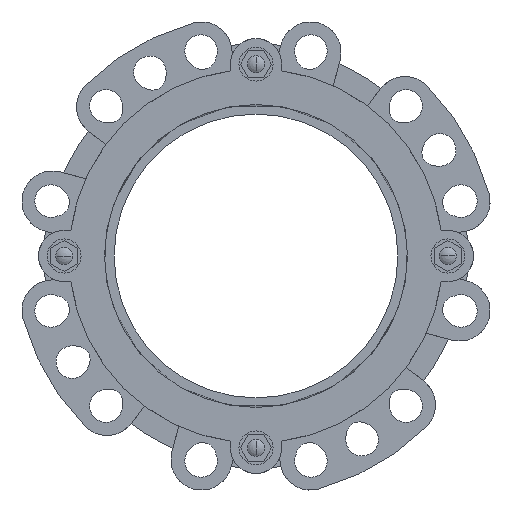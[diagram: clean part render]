
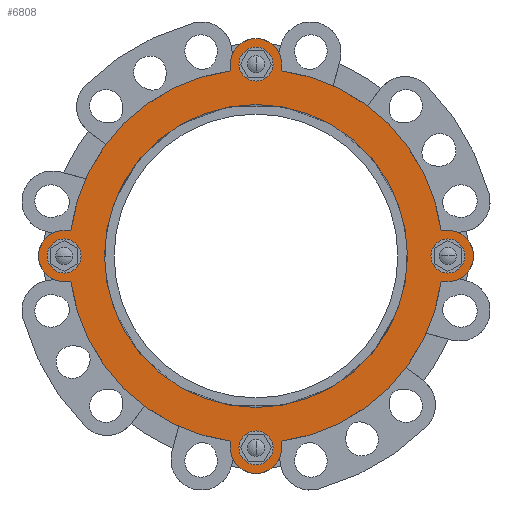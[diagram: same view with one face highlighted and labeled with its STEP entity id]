
A CAD part, left-side view. The second image highlights one B-rep face of the part: STEP entity #6808.
In plain terms, the highlighted planar face has unit normal (-1, 0, 0).
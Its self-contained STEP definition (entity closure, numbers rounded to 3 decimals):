
#1882=CARTESIAN_POINT('',(-101.,0.,0.));
#1883=DIRECTION('',(-1.,0.,0.));
#1884=DIRECTION('',(0.,-0.137,-0.991));
#1885=AXIS2_PLACEMENT_3D('',#1882,#1883,#1884);
#1918=CARTESIAN_POINT('',(-101.,0.,0.));
#1919=DIRECTION('',(-1.,0.,0.));
#1920=DIRECTION('',(0.,0.991,-0.137));
#1921=AXIS2_PLACEMENT_3D('',#1918,#1919,#1920);
#1927=CARTESIAN_POINT('',(-101.,0.,0.));
#1928=DIRECTION('',(-1.,0.,0.));
#1929=DIRECTION('',(0.,0.137,0.991));
#1930=AXIS2_PLACEMENT_3D('',#1927,#1928,#1929);
#1954=CARTESIAN_POINT('',(-101.,0.,0.));
#1955=DIRECTION('',(-1.,0.,0.));
#1956=DIRECTION('',(0.,-0.991,0.137));
#1957=AXIS2_PLACEMENT_3D('',#1954,#1955,#1956);
#2028=DIRECTION('',(0.,0.,-1.));
#2029=VECTOR('',#2028,4.735);
#2030=CARTESIAN_POINT('',(-101.,18.,-130.515));
#2031=LINE('',#2030,#2029);
#2040=CARTESIAN_POINT('',(-101.,0.,-135.25));
#2041=DIRECTION('',(-1.,0.,0.));
#2042=DIRECTION('',(0.,0.,-1.));
#2043=AXIS2_PLACEMENT_3D('',#2040,#2041,#2042);
#2045=CARTESIAN_POINT('',(-101.,0.,-135.25));
#2046=DIRECTION('',(-1.,0.,0.));
#2047=DIRECTION('',(0.,0.,1.));
#2048=AXIS2_PLACEMENT_3D('',#2045,#2046,#2047);
#2050=CARTESIAN_POINT('',(-101.,0.,135.25));
#2051=DIRECTION('',(-1.,0.,0.));
#2052=DIRECTION('',(0.,0.,1.));
#2053=AXIS2_PLACEMENT_3D('',#2050,#2051,#2052);
#2055=CARTESIAN_POINT('',(-101.,0.,135.25));
#2056=DIRECTION('',(-1.,0.,0.));
#2057=DIRECTION('',(0.,0.,-1.));
#2058=AXIS2_PLACEMENT_3D('',#2055,#2056,#2057);
#2060=CARTESIAN_POINT('',(-101.,135.25,0.));
#2061=DIRECTION('',(-1.,0.,0.));
#2062=DIRECTION('',(0.,1.,0.));
#2063=AXIS2_PLACEMENT_3D('',#2060,#2061,#2062);
#2065=CARTESIAN_POINT('',(-101.,135.25,0.));
#2066=DIRECTION('',(-1.,0.,0.));
#2067=DIRECTION('',(0.,-1.,0.));
#2068=AXIS2_PLACEMENT_3D('',#2065,#2066,#2067);
#2070=DIRECTION('',(0.,-1.,0.));
#2071=VECTOR('',#2070,4.735);
#2072=CARTESIAN_POINT('',(-101.,135.25,-18.));
#2073=LINE('',#2072,#2071);
#2074=CARTESIAN_POINT('',(-101.,135.25,0.));
#2075=DIRECTION('',(-1.,0.,0.));
#2076=DIRECTION('',(0.,0.,1.));
#2077=AXIS2_PLACEMENT_3D('',#2074,#2075,#2076);
#2079=DIRECTION('',(0.,1.,0.));
#2080=VECTOR('',#2079,4.735);
#2081=CARTESIAN_POINT('',(-101.,130.515,18.));
#2082=LINE('',#2081,#2080);
#2083=CARTESIAN_POINT('',(-101.,-135.25,0.));
#2084=DIRECTION('',(-1.,0.,0.));
#2085=DIRECTION('',(0.,-1.,0.));
#2086=AXIS2_PLACEMENT_3D('',#2083,#2084,#2085);
#2088=CARTESIAN_POINT('',(-101.,-135.25,0.));
#2089=DIRECTION('',(-1.,0.,0.));
#2090=DIRECTION('',(0.,1.,0.));
#2091=AXIS2_PLACEMENT_3D('',#2088,#2089,#2090);
#2477=DIRECTION('',(0.,0.,1.));
#2478=VECTOR('',#2477,4.735);
#2479=CARTESIAN_POINT('',(-101.,-18.,-135.25));
#2480=LINE('',#2479,#2478);
#2493=CARTESIAN_POINT('',(-101.,0.,-135.25));
#2494=DIRECTION('',(-1.,0.,0.));
#2495=DIRECTION('',(0.,1.,0.));
#2496=AXIS2_PLACEMENT_3D('',#2493,#2494,#2495);
#2746=DIRECTION('',(0.,0.,-1.));
#2747=VECTOR('',#2746,4.735);
#2748=CARTESIAN_POINT('',(-101.,18.,135.25));
#2749=LINE('',#2748,#2747);
#2818=DIRECTION('',(0.,0.,1.));
#2819=VECTOR('',#2818,4.735);
#2820=CARTESIAN_POINT('',(-101.,-18.,130.515));
#2821=LINE('',#2820,#2819);
#2830=CARTESIAN_POINT('',(-101.,0.,135.25));
#2831=DIRECTION('',(-1.,0.,0.));
#2832=DIRECTION('',(0.,-1.,0.));
#2833=AXIS2_PLACEMENT_3D('',#2830,#2831,#2832);
#2853=DIRECTION('',(0.,1.,0.));
#2854=VECTOR('',#2853,4.735);
#2855=CARTESIAN_POINT('',(-101.,-135.25,18.));
#2856=LINE('',#2855,#2854);
#2895=DIRECTION('',(0.,-1.,0.));
#2896=VECTOR('',#2895,4.735);
#2897=CARTESIAN_POINT('',(-101.,-130.515,-18.));
#2898=LINE('',#2897,#2896);
#2907=CARTESIAN_POINT('',(-101.,-135.25,0.));
#2908=DIRECTION('',(-1.,0.,0.));
#2909=DIRECTION('',(0.,0.,-1.));
#2910=AXIS2_PLACEMENT_3D('',#2907,#2908,#2909);
#2976=CARTESIAN_POINT('',(-101.,0.,0.));
#2977=DIRECTION('',(1.,0.,0.));
#2978=DIRECTION('',(0.,1.,0.));
#2979=AXIS2_PLACEMENT_3D('',#2976,#2977,#2978);
#2989=CARTESIAN_POINT('',(-101.,0.,0.));
#2990=DIRECTION('',(-1.,0.,0.));
#2991=DIRECTION('',(0.,1.,0.));
#2992=AXIS2_PLACEMENT_3D('',#2989,#2990,#2991);
#3524=CARTESIAN_POINT('',(-101.,106.75,0.));
#3526=VERTEX_POINT('',#3524);
#3534=CARTESIAN_POINT('',(-101.,-106.75,0.));
#3536=VERTEX_POINT('',#3534);
#3548=CARTESIAN_POINT('',(-101.,135.25,18.));
#3549=CARTESIAN_POINT('',(-101.,135.25,-18.));
#3550=VERTEX_POINT('',#3548);
#3551=VERTEX_POINT('',#3549);
#3553=CARTESIAN_POINT('',(-101.,130.515,18.));
#3555=VERTEX_POINT('',#3553);
#3556=CARTESIAN_POINT('',(-101.,130.515,-18.));
#3558=VERTEX_POINT('',#3556);
#3616=CARTESIAN_POINT('',(-101.,18.,135.25));
#3617=VERTEX_POINT('',#3616);
#3618=CARTESIAN_POINT('',(-101.,-18.,135.25));
#3619=VERTEX_POINT('',#3618);
#3648=CARTESIAN_POINT('',(-101.,-135.25,18.));
#3649=VERTEX_POINT('',#3648);
#3650=CARTESIAN_POINT('',(-101.,-135.25,-18.));
#3651=VERTEX_POINT('',#3650);
#3680=CARTESIAN_POINT('',(-101.,-18.,-135.25));
#3681=VERTEX_POINT('',#3680);
#3682=CARTESIAN_POINT('',(-101.,18.,-135.25));
#3683=VERTEX_POINT('',#3682);
#3692=CARTESIAN_POINT('',(-101.,-18.,130.515));
#3693=VERTEX_POINT('',#3692);
#3694=CARTESIAN_POINT('',(-101.,18.,130.515));
#3695=VERTEX_POINT('',#3694);
#3704=CARTESIAN_POINT('',(-101.,-130.515,-18.));
#3705=VERTEX_POINT('',#3704);
#3706=CARTESIAN_POINT('',(-101.,-130.515,18.));
#3707=VERTEX_POINT('',#3706);
#3718=CARTESIAN_POINT('',(-101.,18.,-130.515));
#3719=VERTEX_POINT('',#3718);
#3720=CARTESIAN_POINT('',(-101.,-18.,-130.515));
#3721=VERTEX_POINT('',#3720);
#3790=CARTESIAN_POINT('',(-101.,147.25,0.));
#3791=CARTESIAN_POINT('',(-101.,123.25,0.));
#3792=VERTEX_POINT('',#3790);
#3793=VERTEX_POINT('',#3791);
#3952=CARTESIAN_POINT('',(-101.,0.,147.25));
#3953=VERTEX_POINT('',#3952);
#3954=CARTESIAN_POINT('',(-101.,0.,123.25));
#3955=VERTEX_POINT('',#3954);
#3964=CARTESIAN_POINT('',(-101.,-147.25,0.));
#3965=VERTEX_POINT('',#3964);
#3966=CARTESIAN_POINT('',(-101.,-123.25,0.));
#3967=VERTEX_POINT('',#3966);
#3976=CARTESIAN_POINT('',(-101.,0.,-147.25));
#3977=VERTEX_POINT('',#3976);
#3978=CARTESIAN_POINT('',(-101.,0.,-123.25));
#3979=VERTEX_POINT('',#3978);
#6744=CARTESIAN_POINT('',(-101.,0.,0.));
#6745=DIRECTION('',(1.,0.,0.));
#6746=DIRECTION('',(0.,-1.,0.));
#6747=AXIS2_PLACEMENT_3D('',#6744,#6745,#6746);
#6748=PLANE('',#6747);
#6749=ORIENTED_EDGE('',*,*,#6575,.F.);
#6751=ORIENTED_EDGE('',*,*,#6750,.F.);
#6753=ORIENTED_EDGE('',*,*,#6752,.F.);
#6754=ORIENTED_EDGE('',*,*,#6734,.F.);
#6755=ORIENTED_EDGE('',*,*,#6601,.F.);
#6757=ORIENTED_EDGE('',*,*,#6756,.F.);
#6759=ORIENTED_EDGE('',*,*,#6758,.F.);
#6761=ORIENTED_EDGE('',*,*,#6760,.F.);
#6762=ORIENTED_EDGE('',*,*,#6621,.F.);
#6764=ORIENTED_EDGE('',*,*,#6763,.F.);
#6766=ORIENTED_EDGE('',*,*,#6765,.F.);
#6768=ORIENTED_EDGE('',*,*,#6767,.F.);
#6769=ORIENTED_EDGE('',*,*,#6644,.F.);
#6771=ORIENTED_EDGE('',*,*,#6770,.F.);
#6773=ORIENTED_EDGE('',*,*,#6772,.F.);
#6775=ORIENTED_EDGE('',*,*,#6774,.F.);
#6776=EDGE_LOOP('',(#6749,#6751,#6753,#6754,#6755,#6757,#6759,#6761,#6762,#6764,
#6766,#6768,#6769,#6771,#6773,#6775));
#6777=FACE_OUTER_BOUND('',#6776,.F.);
#6779=ORIENTED_EDGE('',*,*,#6778,.T.);
#6781=ORIENTED_EDGE('',*,*,#6780,.T.);
#6782=EDGE_LOOP('',(#6779,#6781));
#6783=FACE_BOUND('',#6782,.F.);
#6785=ORIENTED_EDGE('',*,*,#6784,.T.);
#6787=ORIENTED_EDGE('',*,*,#6786,.T.);
#6788=EDGE_LOOP('',(#6785,#6787));
#6789=FACE_BOUND('',#6788,.F.);
#6791=ORIENTED_EDGE('',*,*,#6790,.T.);
#6793=ORIENTED_EDGE('',*,*,#6792,.T.);
#6794=EDGE_LOOP('',(#6791,#6793));
#6795=FACE_BOUND('',#6794,.F.);
#6797=ORIENTED_EDGE('',*,*,#6796,.F.);
#6799=ORIENTED_EDGE('',*,*,#6798,.T.);
#6800=EDGE_LOOP('',(#6797,#6799));
#6801=FACE_BOUND('',#6800,.F.);
#6803=ORIENTED_EDGE('',*,*,#6802,.T.);
#6805=ORIENTED_EDGE('',*,*,#6804,.T.);
#6806=EDGE_LOOP('',(#6803,#6805));
#6807=FACE_BOUND('',#6806,.F.);
#6808=ADVANCED_FACE('',(#6777,#6783,#6789,#6795,#6801,#6807),#6748,.F.);
#1886=CIRCLE('',#1885,131.75);
#1922=CIRCLE('',#1921,131.75);
#1931=CIRCLE('',#1930,131.75);
#1958=CIRCLE('',#1957,131.75);
#2044=CIRCLE('',#2043,12.);
#2049=CIRCLE('',#2048,12.);
#2054=CIRCLE('',#2053,12.);
#2059=CIRCLE('',#2058,12.);
#2064=CIRCLE('',#2063,12.);
#2069=CIRCLE('',#2068,12.);
#2078=CIRCLE('',#2077,18.);
#2087=CIRCLE('',#2086,12.);
#2092=CIRCLE('',#2091,12.);
#2497=CIRCLE('',#2496,18.);
#2834=CIRCLE('',#2833,18.);
#2911=CIRCLE('',#2910,18.);
#2980=CIRCLE('',#2979,106.75);
#2993=CIRCLE('',#2992,106.75);
#6575=EDGE_CURVE('',#3721,#3705,#1886,.T.);
#6601=EDGE_CURVE('',#3558,#3719,#1922,.T.);
#6621=EDGE_CURVE('',#3695,#3555,#1931,.T.);
#6644=EDGE_CURVE('',#3707,#3693,#1958,.T.);
#6734=EDGE_CURVE('',#3719,#3683,#2031,.T.);
#6750=EDGE_CURVE('',#3681,#3721,#2480,.T.);
#6752=EDGE_CURVE('',#3683,#3681,#2497,.T.);
#6756=EDGE_CURVE('',#3551,#3558,#2073,.T.);
#6758=EDGE_CURVE('',#3550,#3551,#2078,.T.);
#6760=EDGE_CURVE('',#3555,#3550,#2082,.T.);
#6763=EDGE_CURVE('',#3617,#3695,#2749,.T.);
#6765=EDGE_CURVE('',#3619,#3617,#2834,.T.);
#6767=EDGE_CURVE('',#3693,#3619,#2821,.T.);
#6770=EDGE_CURVE('',#3649,#3707,#2856,.T.);
#6772=EDGE_CURVE('',#3651,#3649,#2911,.T.);
#6774=EDGE_CURVE('',#3705,#3651,#2898,.T.);
#6778=EDGE_CURVE('',#3953,#3955,#2054,.T.);
#6780=EDGE_CURVE('',#3955,#3953,#2059,.T.);
#6784=EDGE_CURVE('',#3792,#3793,#2064,.T.);
#6786=EDGE_CURVE('',#3793,#3792,#2069,.T.);
#6790=EDGE_CURVE('',#3977,#3979,#2044,.T.);
#6792=EDGE_CURVE('',#3979,#3977,#2049,.T.);
#6796=EDGE_CURVE('',#3526,#3536,#2980,.T.);
#6798=EDGE_CURVE('',#3526,#3536,#2993,.T.);
#6802=EDGE_CURVE('',#3965,#3967,#2087,.T.);
#6804=EDGE_CURVE('',#3967,#3965,#2092,.T.);
